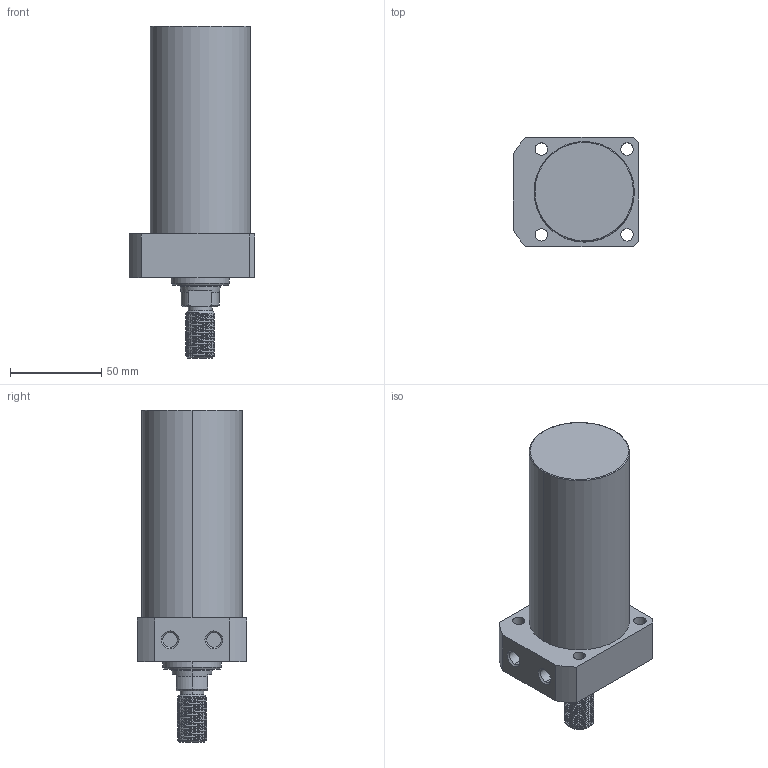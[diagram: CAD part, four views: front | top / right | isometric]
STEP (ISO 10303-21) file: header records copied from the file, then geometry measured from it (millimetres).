
FILE_DESCRIPTION (( 'STEP AP214' ), '1' );
FILE_NAME ('CLLR-055CT-085.STEP', '2020-01-10T00:48:01', ( 'Windows' ), ( 'Microsoft' ), 'SwSTEP 2.0', 'SolidWorks 2015', '' );
FILE_SCHEMA (( 'AUTOMOTIVE_DESIGN' ));
Length unit declared in the file: millimetre
Products named in the file (1): CLLR-055CT-085
Bounding box: 69 x 60 x 182 mm (x, y, z)
Volume: 375716.2 mm3; surface area: 39344.8 mm2
Topology: 1 solids, 1 shells, 102 faces, 261 edges, 169 vertices
Faces by surface type: cylinder 63, plane 20, cone 15, torus 2, bspline 2
Entity records: 5005 total; most frequent: CARTESIAN_POINT 2595, ORIENTED_EDGE 522, DIRECTION 463, EDGE_CURVE 261, AXIS2_PLACEMENT_3D 182, VERTEX_POINT 169, EDGE_LOOP 118, FACE_OUTER_BOUND 102
